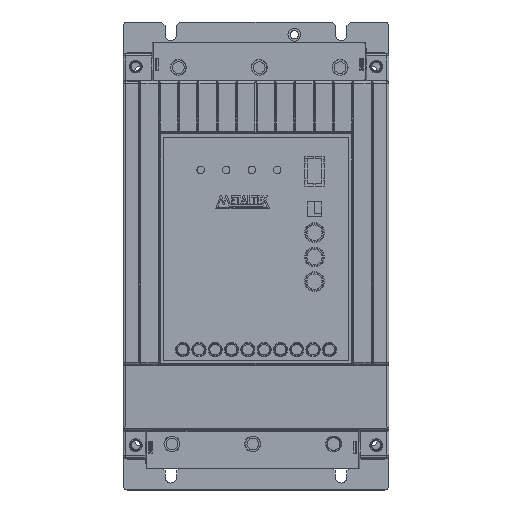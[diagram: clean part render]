
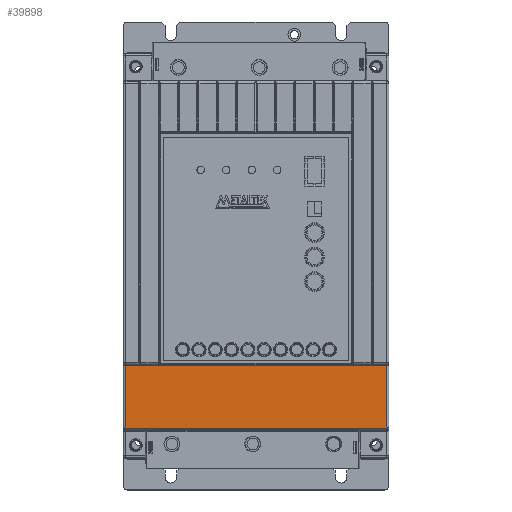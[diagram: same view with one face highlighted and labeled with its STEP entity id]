
A CAD part, top view. The second image highlights one B-rep face of the part: STEP entity #39898.
In plain terms, the highlighted planar face has unit normal (0, -0.033, 1).
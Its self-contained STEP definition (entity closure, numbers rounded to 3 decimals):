
#24651 = CYLINDRICAL_SURFACE('',#24652,1.);
#24652 = AXIS2_PLACEMENT_3D('',#24653,#24654,#24655);
#24653 = CARTESIAN_POINT('',(-411.5,42.716,
    58.483));
#24654 = DIRECTION('',(0.,-0.999,-0.033));
#24655 = DIRECTION('',(0.,0.033,-0.999));
#28532 = CYLINDRICAL_SURFACE('',#28533,0.5);
#28533 = AXIS2_PLACEMENT_3D('',#28534,#28535,#28536);
#28534 = CARTESIAN_POINT('',(-400.,-71.05,56.284));
#28535 = DIRECTION('',(1.,0.,0.));
#28536 = DIRECTION('',(0.,0.,-1.));
#35758 = CYLINDRICAL_SURFACE('',#35759,1.);
#35759 = AXIS2_PLACEMENT_3D('',#35760,#35761,#35762);
#35760 = CARTESIAN_POINT('',(-288.5,-101.267,
    53.801));
#35761 = DIRECTION('',(0.,-0.999,-0.033));
#35762 = DIRECTION('',(0.,0.033,-0.999));
#39898 = ADVANCED_FACE('',(#39899),#39923,.F.);
#39899 = FACE_BOUND('',#39900,.T.);
#39900 = EDGE_LOOP('',(#39901,#39964,#39987,#40010));
#39901 = ORIENTED_EDGE('',*,*,#39902,.T.);
#39902 = EDGE_CURVE('',#39903,#39905,#39907,.T.);
#39903 = VERTEX_POINT('',#39904);
#39904 = CARTESIAN_POINT('',(-411.5,-100.339,
    54.831));
#39905 = VERTEX_POINT('',#39906);
#39906 = CARTESIAN_POINT('',(-288.5,-100.339,
    54.831));
#39907 = SURFACE_CURVE('',#39908,(#39922,#39944),.PCURVE_S1.);
#39908 = B_SPLINE_CURVE_WITH_KNOTS('',3,(#39909,#39910,#39911,#39912,
    #39913,#39914,#39915,#39916,#39917,#39918,#39919,#39920,#39921),
  .UNSPECIFIED.,.F.,.F.,(4,3,3,3,4),(0.,0.016,
    0.081,0.341,1.),.UNSPECIFIED.);
#39909 = CARTESIAN_POINT('',(-411.5,-100.339,
    54.831));
#39910 = CARTESIAN_POINT('',(-410.833,-100.339,
    54.831));
#39911 = CARTESIAN_POINT('',(-410.167,-100.339,
    54.831));
#39912 = CARTESIAN_POINT('',(-409.5,-100.339,
    54.831));
#39913 = CARTESIAN_POINT('',(-406.833,-100.339,
    54.831));
#39914 = CARTESIAN_POINT('',(-404.167,-100.339,
    54.831));
#39915 = CARTESIAN_POINT('',(-401.5,-100.339,
    54.831));
#39916 = CARTESIAN_POINT('',(-390.833,-100.339,
    54.831));
#39917 = CARTESIAN_POINT('',(-380.167,-100.339,
    54.831));
#39918 = CARTESIAN_POINT('',(-369.5,-100.339,
    54.831));
#39919 = CARTESIAN_POINT('',(-342.5,-100.339,
    54.831));
#39920 = CARTESIAN_POINT('',(-315.5,-100.339,
    54.831));
#39921 = CARTESIAN_POINT('',(-288.5,-100.339,
    54.831));
#39922 = PCURVE('',#39923,#39928);
#39923 = PLANE('',#39924);
#39924 = AXIS2_PLACEMENT_3D('',#39925,#39926,#39927);
#39925 = CARTESIAN_POINT('',(-350.,-101.3,54.8));
#39926 = DIRECTION('',(0.,0.033,
    -0.999));
#39927 = DIRECTION('',(0.,0.999,0.033));
#39928 = DEFINITIONAL_REPRESENTATION('',(#39929),#39943);
#39929 = B_SPLINE_CURVE_WITH_KNOTS('',3,(#39930,#39931,#39932,#39933,
    #39934,#39935,#39936,#39937,#39938,#39939,#39940,#39941,#39942),
  .UNSPECIFIED.,.F.,.F.,(4,3,3,3,4),(0.,0.016,
    0.081,0.341,1.),.UNSPECIFIED.);
#39930 = CARTESIAN_POINT('',(0.961,-61.5));
#39931 = CARTESIAN_POINT('',(0.961,-60.833));
#39932 = CARTESIAN_POINT('',(0.961,-60.167));
#39933 = CARTESIAN_POINT('',(0.961,-59.5));
#39934 = CARTESIAN_POINT('',(0.961,-56.833));
#39935 = CARTESIAN_POINT('',(0.961,-54.167));
#39936 = CARTESIAN_POINT('',(0.961,-51.5));
#39937 = CARTESIAN_POINT('',(0.961,-40.833));
#39938 = CARTESIAN_POINT('',(0.961,-30.167));
#39939 = CARTESIAN_POINT('',(0.961,-19.5));
#39940 = CARTESIAN_POINT('',(0.961,7.5));
#39941 = CARTESIAN_POINT('',(0.961,34.5));
#39942 = CARTESIAN_POINT('',(0.961,61.5));
#39943 = ( GEOMETRIC_REPRESENTATION_CONTEXT(2) 
PARAMETRIC_REPRESENTATION_CONTEXT() REPRESENTATION_CONTEXT('2D SPACE',''
  ) );
#39944 = PCURVE('',#39945,#39958);
#39945 = ( BOUNDED_SURFACE() B_SPLINE_SURFACE(3,2,(
    (#39946,#39947,#39948)
    ,(#39949,#39950,#39951)
    ,(#39952,#39953,#39954)
    ,(#39955,#39956,#39957
)),.UNSPECIFIED.,.F.,.F.,.F.) B_SPLINE_SURFACE_WITH_KNOTS((4,4),(3,3),(
    0.,1.),(0.,1.),.PIECEWISE_BEZIER_KNOTS.) 
GEOMETRIC_REPRESENTATION_ITEM() RATIONAL_B_SPLINE_SURFACE((
    (1.,0.721,1.)
    ,(1.,0.721,1.)
    ,(1.,0.721,1.)
,(1.,0.721,1.))) REPRESENTATION_ITEM('') SURFACE() );
#39946 = CARTESIAN_POINT('',(-288.5,-100.339,
    54.831));
#39947 = CARTESIAN_POINT('',(-288.5,-101.3,54.8));
#39948 = CARTESIAN_POINT('',(-288.5,-101.307,
    53.839));
#39949 = CARTESIAN_POINT('',(-329.5,-100.339,
    54.831));
#39950 = CARTESIAN_POINT('',(-329.5,-101.3,
    54.8));
#39951 = CARTESIAN_POINT('',(-329.5,-101.307,
    53.839));
#39952 = CARTESIAN_POINT('',(-370.5,-100.339,
    54.831));
#39953 = CARTESIAN_POINT('',(-370.5,-101.3,
    54.8));
#39954 = CARTESIAN_POINT('',(-370.5,-101.307,
    53.839));
#39955 = CARTESIAN_POINT('',(-411.5,-100.339,
    54.831));
#39956 = CARTESIAN_POINT('',(-411.5,-101.3,54.8));
#39957 = CARTESIAN_POINT('',(-411.5,-101.307,
    53.839));
#39958 = DEFINITIONAL_REPRESENTATION('',(#39959),#39963);
#39959 = LINE('',#39960,#39961);
#39960 = CARTESIAN_POINT('',(1.,0.));
#39961 = VECTOR('',#39962,1.);
#39962 = DIRECTION('',(-1.,0.));
#39963 = ( GEOMETRIC_REPRESENTATION_CONTEXT(2) 
PARAMETRIC_REPRESENTATION_CONTEXT() REPRESENTATION_CONTEXT('2D SPACE',''
  ) );
#39964 = ORIENTED_EDGE('',*,*,#39965,.T.);
#39965 = EDGE_CURVE('',#39905,#39966,#39968,.T.);
#39966 = VERTEX_POINT('',#39967);
#39967 = CARTESIAN_POINT('',(-288.5,-71.034,
    55.784));
#39968 = SURFACE_CURVE('',#39969,(#39973,#39980),.PCURVE_S1.);
#39969 = LINE('',#39970,#39971);
#39970 = CARTESIAN_POINT('',(-288.5,-70.652,
    55.797));
#39971 = VECTOR('',#39972,1.);
#39972 = DIRECTION('',(0.,0.999,
    0.033));
#39973 = PCURVE('',#39923,#39974);
#39974 = DEFINITIONAL_REPRESENTATION('',(#39975),#39979);
#39975 = LINE('',#39976,#39977);
#39976 = CARTESIAN_POINT('',(30.664,61.5));
#39977 = VECTOR('',#39978,1.);
#39978 = DIRECTION('',(1.,0.));
#39979 = ( GEOMETRIC_REPRESENTATION_CONTEXT(2) 
PARAMETRIC_REPRESENTATION_CONTEXT() REPRESENTATION_CONTEXT('2D SPACE',''
  ) );
#39980 = PCURVE('',#35758,#39981);
#39981 = DEFINITIONAL_REPRESENTATION('',(#39982),#39986);
#39982 = LINE('',#39983,#39984);
#39983 = CARTESIAN_POINT('',(3.142,-30.664));
#39984 = VECTOR('',#39985,1.);
#39985 = DIRECTION('',(0.,-1.));
#39986 = ( GEOMETRIC_REPRESENTATION_CONTEXT(2) 
PARAMETRIC_REPRESENTATION_CONTEXT() REPRESENTATION_CONTEXT('2D SPACE',''
  ) );
#39987 = ORIENTED_EDGE('',*,*,#39988,.T.);
#39988 = EDGE_CURVE('',#39966,#39989,#39991,.T.);
#39989 = VERTEX_POINT('',#39990);
#39990 = CARTESIAN_POINT('',(-411.5,-71.034,
    55.784));
#39991 = SURFACE_CURVE('',#39992,(#39996,#40003),.PCURVE_S1.);
#39992 = LINE('',#39993,#39994);
#39993 = CARTESIAN_POINT('',(-350.,-71.034,55.784));
#39994 = VECTOR('',#39995,1.);
#39995 = DIRECTION('',(-1.,0.,0.));
#39996 = PCURVE('',#39923,#39997);
#39997 = DEFINITIONAL_REPRESENTATION('',(#39998),#40002);
#39998 = LINE('',#39999,#40000);
#39999 = CARTESIAN_POINT('',(30.282,0.));
#40000 = VECTOR('',#40001,1.);
#40001 = DIRECTION('',(0.,-1.));
#40002 = ( GEOMETRIC_REPRESENTATION_CONTEXT(2) 
PARAMETRIC_REPRESENTATION_CONTEXT() REPRESENTATION_CONTEXT('2D SPACE',''
  ) );
#40003 = PCURVE('',#28532,#40004);
#40004 = DEFINITIONAL_REPRESENTATION('',(#40005),#40009);
#40005 = LINE('',#40006,#40007);
#40006 = CARTESIAN_POINT('',(0.033,50.));
#40007 = VECTOR('',#40008,1.);
#40008 = DIRECTION('',(0.,-1.));
#40009 = ( GEOMETRIC_REPRESENTATION_CONTEXT(2) 
PARAMETRIC_REPRESENTATION_CONTEXT() REPRESENTATION_CONTEXT('2D SPACE',''
  ) );
#40010 = ORIENTED_EDGE('',*,*,#40011,.T.);
#40011 = EDGE_CURVE('',#39989,#39903,#40012,.T.);
#40012 = SURFACE_CURVE('',#40013,(#40017,#40024),.PCURVE_S1.);
#40013 = LINE('',#40014,#40015);
#40014 = CARTESIAN_POINT('',(-411.5,-100.3,
    54.833));
#40015 = VECTOR('',#40016,1.);
#40016 = DIRECTION('',(0.,-0.999,
    -0.033));
#40017 = PCURVE('',#39923,#40018);
#40018 = DEFINITIONAL_REPRESENTATION('',(#40019),#40023);
#40019 = LINE('',#40020,#40021);
#40020 = CARTESIAN_POINT('',(1.001,-61.5));
#40021 = VECTOR('',#40022,1.);
#40022 = DIRECTION('',(-1.,0.));
#40023 = ( GEOMETRIC_REPRESENTATION_CONTEXT(2) 
PARAMETRIC_REPRESENTATION_CONTEXT() REPRESENTATION_CONTEXT('2D SPACE',''
  ) );
#40024 = PCURVE('',#24651,#40025);
#40025 = DEFINITIONAL_REPRESENTATION('',(#40026),#40030);
#40026 = LINE('',#40027,#40028);
#40027 = CARTESIAN_POINT('',(3.142,143.059));
#40028 = VECTOR('',#40029,1.);
#40029 = DIRECTION('',(0.,1.));
#40030 = ( GEOMETRIC_REPRESENTATION_CONTEXT(2) 
PARAMETRIC_REPRESENTATION_CONTEXT() REPRESENTATION_CONTEXT('2D SPACE',''
  ) );
